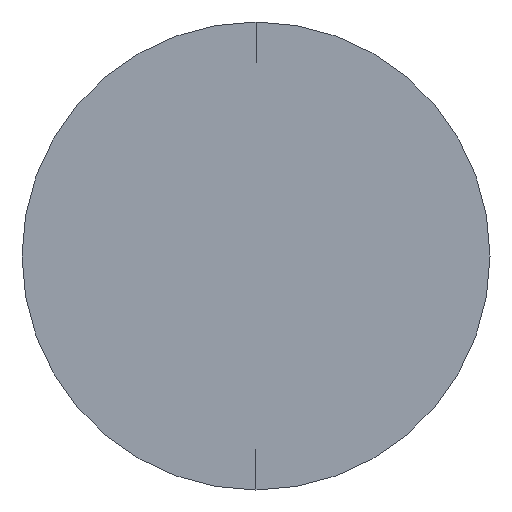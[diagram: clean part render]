
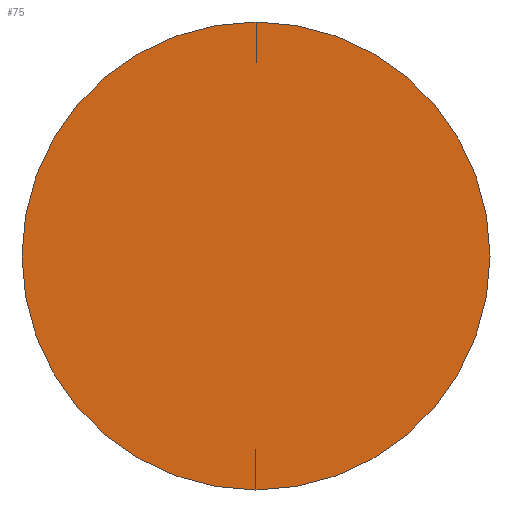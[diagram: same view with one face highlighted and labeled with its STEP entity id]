
A CAD part, left-side view. The second image highlights one B-rep face of the part: STEP entity #75.
In plain terms, the highlighted planar face has unit normal (-1, 0, 0).
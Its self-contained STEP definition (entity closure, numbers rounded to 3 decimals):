
#13 = CARTESIAN_POINT ( 'NONE',  ( 0., 0., 0. ) ) ;
#31 = AXIS2_PLACEMENT_3D ( 'NONE', #197, #219, #198 ) ;
#49 = ORIENTED_EDGE ( 'NONE', *, *, #101, .T. ) ;
#62 = CARTESIAN_POINT ( 'NONE',  ( 0., 0., 0. ) ) ;
#75 = ADVANCED_FACE ( 'NONE', ( #202 ), #89, .F. ) ;
#89 = PLANE ( 'NONE',  #118 ) ;
#91 = DIRECTION ( 'NONE',  ( -1., 0., 0. ) ) ;
#101 = EDGE_CURVE ( 'NONE', #190, #207, #144, .T. ) ;
#109 = DIRECTION ( 'NONE',  ( 0., 0., -1. ) ) ;
#111 = DIRECTION ( 'NONE',  ( 0., 0., 1. ) ) ;
#118 = AXIS2_PLACEMENT_3D ( 'NONE', #13, #234, #109 ) ;
#136 = CARTESIAN_POINT ( 'NONE',  ( 0., 0., 1. ) ) ;
#144 = CIRCLE ( 'NONE', #169, 1. ) ;
#153 = EDGE_LOOP ( 'NONE', ( #49, #225 ) ) ;
#161 = CARTESIAN_POINT ( 'NONE',  ( 0., 0., -1. ) ) ;
#169 = AXIS2_PLACEMENT_3D ( 'NONE', #62, #91, #111 ) ;
#190 = VERTEX_POINT ( 'NONE', #136 ) ;
#197 = CARTESIAN_POINT ( 'NONE',  ( 0., 0., 0. ) ) ;
#198 = DIRECTION ( 'NONE',  ( 0., 0., 1. ) ) ;
#202 = FACE_OUTER_BOUND ( 'NONE', #153, .T. ) ;
#207 = VERTEX_POINT ( 'NONE', #161 ) ;
#219 = DIRECTION ( 'NONE',  ( -1., 0., 0. ) ) ;
#225 = ORIENTED_EDGE ( 'NONE', *, *, #231, .T. ) ;
#231 = EDGE_CURVE ( 'NONE', #207, #190, #284, .T. ) ;
#234 = DIRECTION ( 'NONE',  ( 1., 0., 0. ) ) ;
#284 = CIRCLE ( 'NONE', #31, 1. ) ;
